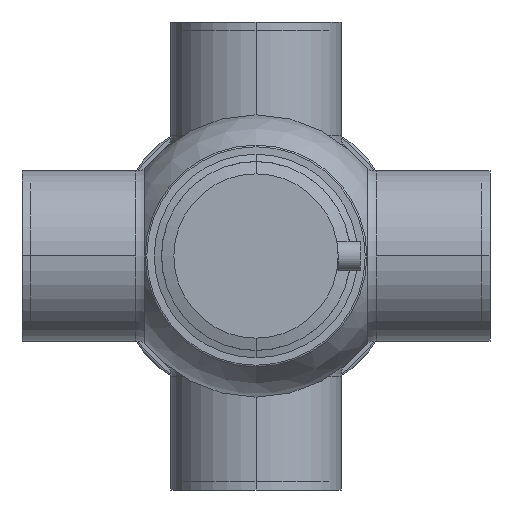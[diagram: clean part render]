
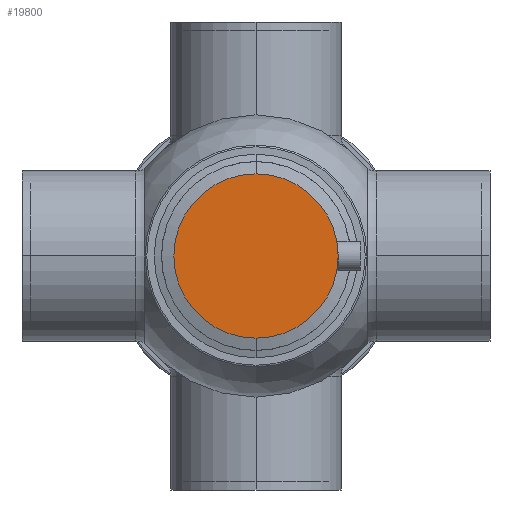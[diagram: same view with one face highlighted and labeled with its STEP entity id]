
A CAD part, front view. The second image highlights one B-rep face of the part: STEP entity #19800.
In plain terms, the highlighted planar face has unit normal (0, -1, 0) as drawn and (0, 0, -1) by its records, which use the part's own axes.
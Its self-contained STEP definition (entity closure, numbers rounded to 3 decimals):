
#11030=CARTESIAN_POINT('',(50.,34.1,-20.));
#11040=VERTEX_POINT('',#11030);
#11090=CARTESIAN_POINT('',(0.,34.1,-20.));
#11100=DIRECTION('',(0.,0.,1.));
#11110=DIRECTION('',(1.,0.,0.));
#11120=AXIS2_PLACEMENT_3D('',#11090,#11100,#11110);
#11130=CIRCLE('',#11120,50.);
#11140=CARTESIAN_POINT('',(-50.,34.1,-20.));
#11150=VERTEX_POINT('',#11140);
#11160=EDGE_CURVE('',#11150,#11040,#11130,.T.);
#19700=CARTESIAN_POINT('',(-48.25,34.1,-20.));
#19710=DIRECTION('',(0.,0.,-1.));
#19720=DIRECTION('',(-1.,0.,0.));
#19730=AXIS2_PLACEMENT_3D('',#19700,#19710,#19720);
#19740=PLANE('',#19730);
#19750=ORIENTED_EDGE('',*,*,#11160,.F.);
#19760=EDGE_CURVE('',#11040,#11150,#11130,.T.);
#19770=ORIENTED_EDGE('',*,*,#19760,.F.);
#19780=EDGE_LOOP('',(#19770,#19750));
#19790=FACE_OUTER_BOUND('',#19780,.T.);
#19800=ADVANCED_FACE('',(#19790),#19740,.T.);
